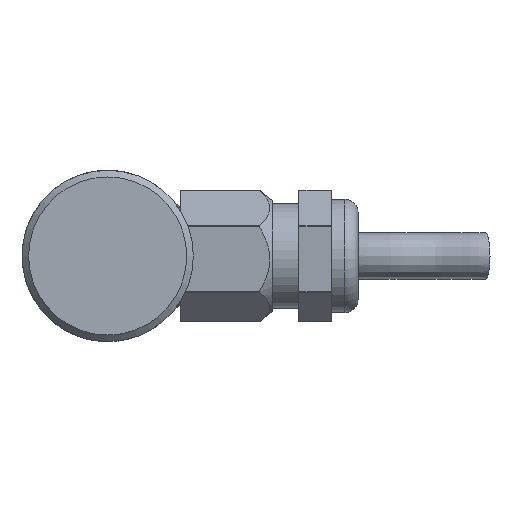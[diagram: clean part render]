
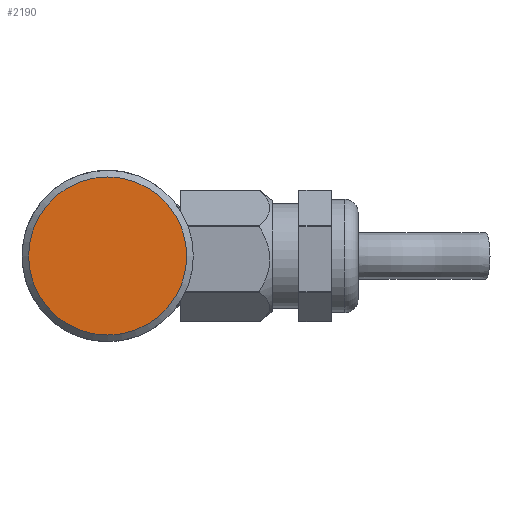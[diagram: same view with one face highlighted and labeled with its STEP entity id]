
A CAD part, left-side view. The second image highlights one B-rep face of the part: STEP entity #2190.
In plain terms, the highlighted planar face has unit normal (-1, 0, 0).
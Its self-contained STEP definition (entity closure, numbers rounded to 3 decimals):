
#642=PLANE('',#2315);
#936=CIRCLE('',#2314,6.);
#1052=VERTEX_POINT('',#3230);
#1268=EDGE_CURVE('',#1052,#1052,#936,.T.);
#1539=ORIENTED_EDGE('',*,*,#1268,.T.);
#1945=EDGE_LOOP('',(#1539));
#2070=FACE_BOUND('',#1945,.T.);
#2190=ADVANCED_FACE('',(#2070),#642,.F.);
#2314=AXIS2_PLACEMENT_3D('',#3229,#2522,#2523);
#2315=AXIS2_PLACEMENT_3D('',#3231,#2524,$);
#2522=DIRECTION('',(-1.,0.,0.));
#2523=DIRECTION('',(0.,0.,-6.));
#2524=DIRECTION('',(1.,0.,0.));
#3229=CARTESIAN_POINT('',(-21.,0.,0.));
#3230=CARTESIAN_POINT('',(-21.,0.,-6.));
#3231=CARTESIAN_POINT('',(-21.,0.,0.));
